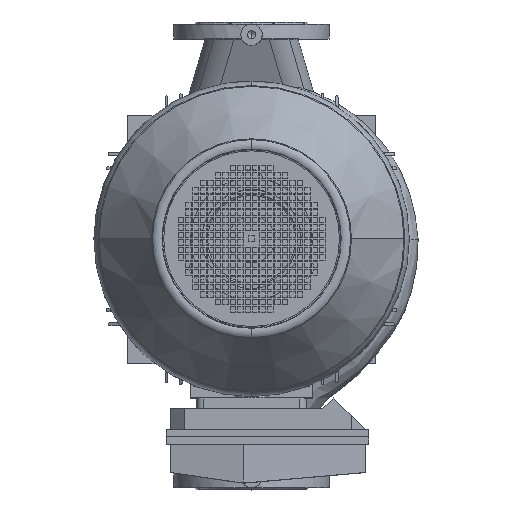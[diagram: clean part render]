
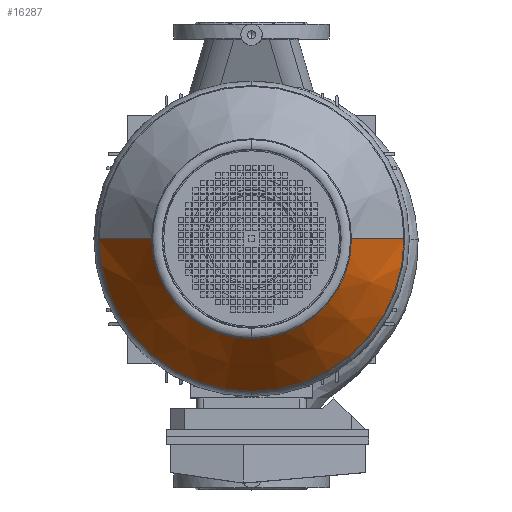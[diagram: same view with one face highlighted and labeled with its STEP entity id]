
A CAD part, top view. The second image highlights one B-rep face of the part: STEP entity #16287.
In plain terms, the highlighted conical face has half-angle 34.804 degrees and reference radius 178.671 mm.
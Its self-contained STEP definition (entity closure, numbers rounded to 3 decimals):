
#16287=ADVANCED_FACE('',(#37356),#37357,.T.);
#18903=EDGE_CURVE('',#41922,#41925,#41926,.T.);
#18905=EDGE_CURVE('',#41928,#41929,#41930,.T.);
#18907=EDGE_CURVE('',#41929,#41932,#41933,.T.);
#18909=EDGE_CURVE('',#41925,#41935,#41936,.T.);
#37356=FACE_OUTER_BOUND('',#79373,.T.);
#37357=CONICAL_SURFACE('',#79374,178.671,0.607);
#41922=VERTEX_POINT('',#83956);
#41925=VERTEX_POINT('',#83960);
#41926=CIRCLE('',#83961,141.0);
#41928=VERTEX_POINT('',#83964);
#41929=VERTEX_POINT('',#83965);
#41930=CIRCLE('',#83966,216.342);
#41932=VERTEX_POINT('',#83969);
#41933=CIRCLE('',#83970,216.342);
#41935=VERTEX_POINT('',#83973);
#41936=CIRCLE('',#83974,141.0);
#79373=EDGE_LOOP('',(#118308,#118309,#118310,#118311,#118312,#118313));
#79374=AXIS2_PLACEMENT_3D('',#118314,#118315,#118316);
#83956=CARTESIAN_POINT('',(228.035,141.0,0.0));
#83960=CARTESIAN_POINT('',(228.035,0.,141.0));
#83961=AXIS2_PLACEMENT_3D('',#131254,#131255,#131256);
#83964=CARTESIAN_POINT('',(119.648,216.342,0.0));
#83965=CARTESIAN_POINT('',(119.648,0.,216.342));
#83966=AXIS2_PLACEMENT_3D('',#131257,#131258,#131259);
#83969=CARTESIAN_POINT('',(119.648,-216.342,0.));
#83970=AXIS2_PLACEMENT_3D('',#131260,#131261,#131262);
#83973=CARTESIAN_POINT('',(228.035,-141.0,0.));
#83974=AXIS2_PLACEMENT_3D('',#131263,#131264,#131265);
#118308=ORIENTED_EDGE('',*,*,#138672,.F.);
#118309=ORIENTED_EDGE('',*,*,#18905,.T.);
#118310=ORIENTED_EDGE('',*,*,#18907,.T.);
#118311=ORIENTED_EDGE('',*,*,#138673,.F.);
#118312=ORIENTED_EDGE('',*,*,#18909,.F.);
#118313=ORIENTED_EDGE('',*,*,#18903,.F.);
#118314=CARTESIAN_POINT('',(173.842,0.0,0.0));
#118315=DIRECTION('',(-1.0,-0.0,-0.0));
#118316=DIRECTION('',(0.0,1.0,0.0));
#131254=CARTESIAN_POINT('',(228.035,0.0,0.0));
#131255=DIRECTION('',(1.0,0.0,0.0));
#131256=DIRECTION('',(0.0,1.0,0.0));
#131257=CARTESIAN_POINT('',(119.648,0.0,0.0));
#131258=DIRECTION('',(1.0,0.0,0.0));
#131259=DIRECTION('',(0.0,1.0,0.0));
#131260=CARTESIAN_POINT('',(119.648,0.0,0.0));
#131261=DIRECTION('',(1.0,0.0,0.0));
#131262=DIRECTION('',(0.0,1.0,0.0));
#131263=CARTESIAN_POINT('',(228.035,0.0,0.0));
#131264=DIRECTION('',(1.0,0.0,0.0));
#131265=DIRECTION('',(0.0,1.0,0.0));
#138672=EDGE_CURVE('',#41928,#41922,#143571,.T.);
#138673=EDGE_CURVE('',#41935,#41932,#143572,.T.);
#143571=LINE('',#153109,#153110);
#143572=LINE('',#153111,#153112);
#153109=CARTESIAN_POINT('',(173.842,178.671,0.));
#153110=VECTOR('',#156691,1.0);
#153111=CARTESIAN_POINT('',(173.842,-178.671,0.));
#153112=VECTOR('',#156692,1.0);
#156691=DIRECTION('',(0.821,-0.571,0.));
#156692=DIRECTION('',(-0.821,-0.571,0.));
